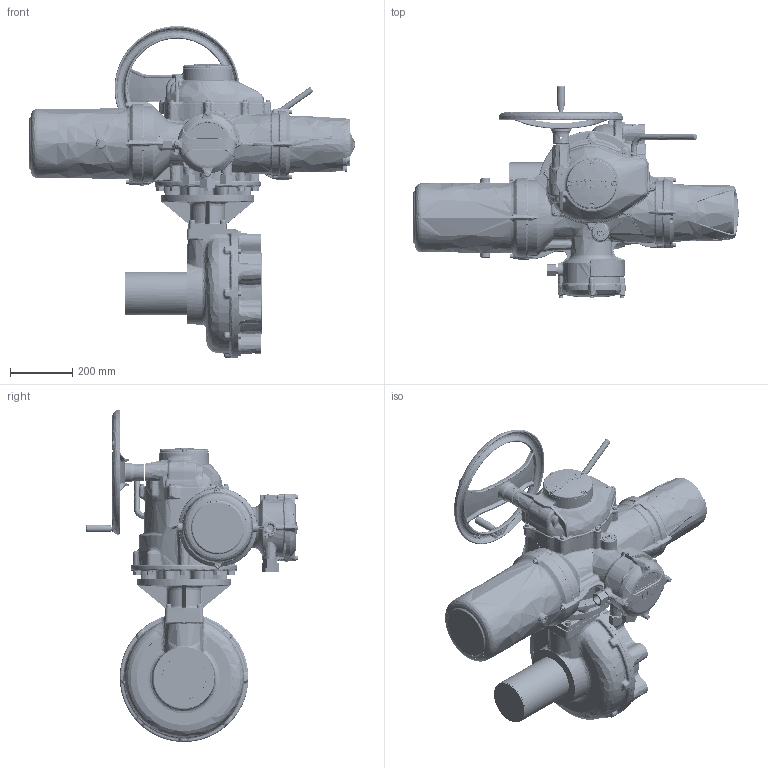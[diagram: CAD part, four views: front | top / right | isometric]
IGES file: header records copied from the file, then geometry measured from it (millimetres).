
Start section: C
Global section: file name: II5-91-SHWIB11STD-1.igs; native system: By Siemens PLM Incorporated; preprocessor: XPlus GENERIC/IGES 18.0.17; author: Author; organization: Title; date: 20160624.101823; units: millimetre
Bounding box: 1041.8 x 680.05 x 1063.5 mm (x, y, z)
Surface area: 2716544.5 mm2 (no closed solid volume)
Topology: 0 solids, 0 shells, 9117 faces, 49864 edges, 49403 vertices
Faces by surface type: bspline 9117
